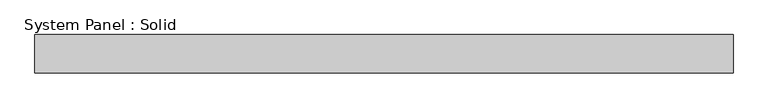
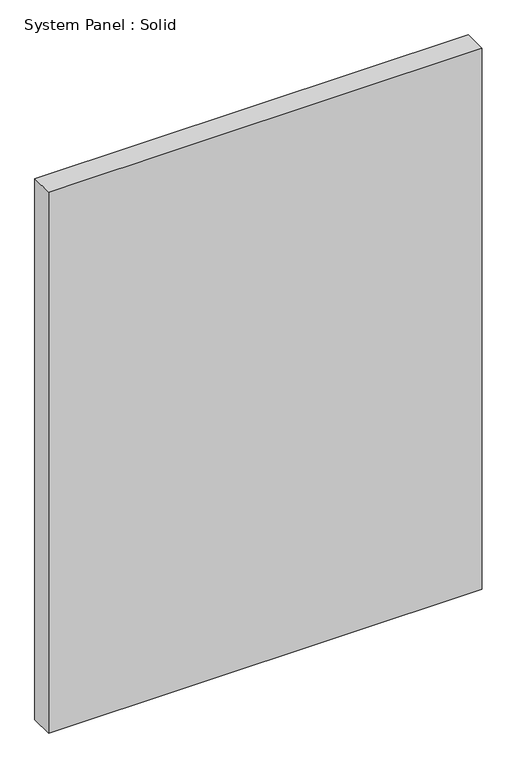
"""IFC4 building model written with IfcOpenShell, lengths in millimetres: plate geometry, System Panel : Solid."""

from ifc_helpers import new_model, si_unit, origin, origin_with_axes, place, context, project, spatial, polyline, outline, extrude, source, transform, mapped, element, save


def system_panel_solid_df1dc4a9(model_context):
    return source(origin(), model_context, "Body", "SweptSolid", [
        extrude(outline(polyline([(549.5, -10.5), (-549.5, -10.5), (-549.5, 49.5), (549.5, 49.5), (549.5, -10.5)])), origin_with_axes(), (0.0, 0.0, 1.0), 1448.7250795),
    ])


if __name__ == "__main__":
    model = new_model("IFC4")
    model_context = context("Model", 3, world=origin())
    ifc_project = project(units=[si_unit("LENGTHUNIT", "METRE", prefix="MILLI")], contexts=[model_context])
    site = spatial("IfcSite", under=ifc_project)
    building = spatial("IfcBuilding", under=site)
    placement = place(None, origin())
    system_panel_solid_shape = system_panel_solid_df1dc4a9(model_context)
    element("IfcPlate", 1, ObjectType="System Panel : Solid", at=placement, inside=building, context=model_context, shape_type="MappedRepresentation", body=[
        mapped(system_panel_solid_shape, transform((0.0, 0.0, 0.0), x_axis=(1.0, 0.0, 0.0), y_axis=(0.0, 1.0, 0.0), z_axis=(0.0, 0.0, 1.0))),
    ])
    save(model, "model.ifc")
